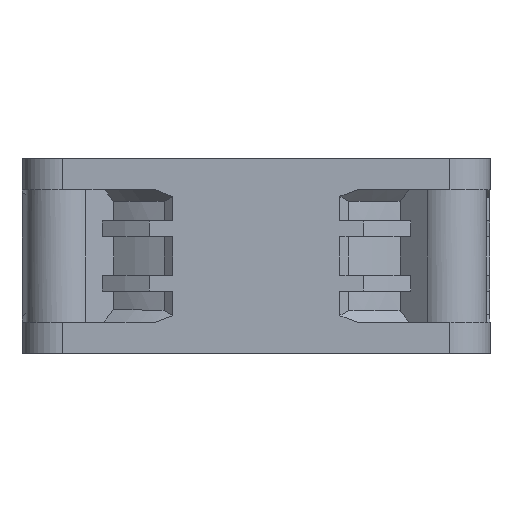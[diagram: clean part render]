
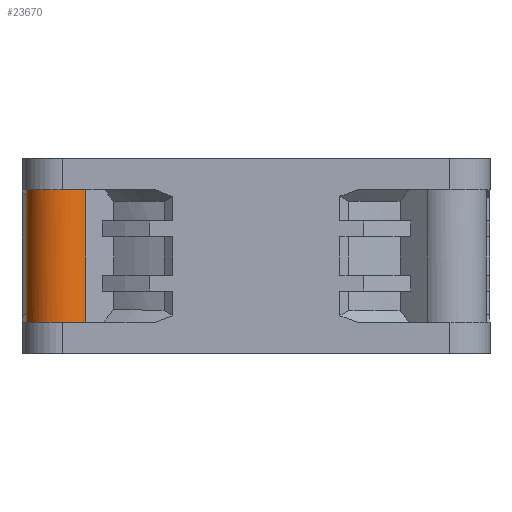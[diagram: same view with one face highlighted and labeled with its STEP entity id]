
A CAD part, left-side view. The second image highlights one B-rep face of the part: STEP entity #23670.
In plain terms, the highlighted free-form (B-spline) face has degree [1, 2] with [2, 9] control points.
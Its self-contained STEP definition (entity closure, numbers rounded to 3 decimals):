
#78=CARTESIAN_POINT('',(-128.385,21.868,20.7));
#79=VERTEX_POINT('',#78);
#85=CARTESIAN_POINT('',(-128.385,21.868,3.7));
#86=VERTEX_POINT('',#85);
#87=CARTESIAN_POINT('',(-128.385,21.868,20.7));
#88=CARTESIAN_POINT('',(-128.385,21.868,3.7));
#89=B_SPLINE_CURVE_WITH_KNOTS('',1,(#87,#88),.POLYLINE_FORM.,.F.,.U.,(2,2),(0.,1.),.UNSPECIFIED.);
#90=EDGE_CURVE('',#79,#86,#89,.T.);
#6789=CARTESIAN_POINT('',(-121.967,28.309,3.7));
#6790=VERTEX_POINT('',#6789);
#6796=CARTESIAN_POINT('',(-121.967,28.309,20.7));
#6797=VERTEX_POINT('',#6796);
#6798=CARTESIAN_POINT('',(-121.967,28.309,3.7));
#6799=CARTESIAN_POINT('',(-121.967,28.309,20.7));
#6800=B_SPLINE_CURVE_WITH_KNOTS('',1,(#6798,#6799),.POLYLINE_FORM.,.F.,.U.,(2,2),(0.,1.),.UNSPECIFIED.);
#6801=EDGE_CURVE('',#6790,#6797,#6800,.T.);
#23631=CARTESIAN_POINT('',(-123.951,17.07,3.7));
#23632=CARTESIAN_POINT('',(-126.168,19.469,3.7));
#23633=CARTESIAN_POINT('',(-128.385,21.868,3.7));
#23634=CARTESIAN_POINT('',(-131.349,25.075,3.7));
#23635=CARTESIAN_POINT('',(-128.267,28.168,3.7));
#23636=CARTESIAN_POINT('',(-125.184,31.261,3.7));
#23637=CARTESIAN_POINT('',(-121.967,28.309,3.7));
#23638=CARTESIAN_POINT('',(-119.561,26.101,3.7));
#23639=CARTESIAN_POINT('',(-117.155,23.893,3.7));
#23640=CARTESIAN_POINT('',(-123.951,17.07,20.7));
#23641=CARTESIAN_POINT('',(-126.168,19.469,20.7));
#23642=CARTESIAN_POINT('',(-128.385,21.868,20.7));
#23643=CARTESIAN_POINT('',(-131.349,25.075,20.7));
#23644=CARTESIAN_POINT('',(-128.267,28.168,20.7));
#23645=CARTESIAN_POINT('',(-125.184,31.261,20.7));
#23646=CARTESIAN_POINT('',(-121.967,28.309,20.7));
#23647=CARTESIAN_POINT('',(-119.561,26.101,20.7));
#23648=CARTESIAN_POINT('',(-117.155,23.893,20.7));
#23649=(BOUNDED_SURFACE()B_SPLINE_SURFACE(1,2,((#23631,#23632,#23633,#23634,#23635,#23636,#23637,#23638,#23639),(#23640,#23641,#23642,#23643,#23644,#23645,#23646,#23647,#23648)),.SURF_OF_LINEAR_EXTRUSION.,.F.,.F.,.U.)B_SPLINE_SURFACE_WITH_KNOTS((2,2),(3,2,2,2,3),(0.,3.736),(-7.138,0.,6.941,13.881,21.017),.UNSPECIFIED.)GEOMETRIC_REPRESENTATION_ITEM()RATIONAL_B_SPLINE_SURFACE(((0.984,0.984,0.984,0.716,1.,0.716,0.984,0.984,0.984),(0.984,0.984,0.984,0.716,1.,0.716,0.984,0.984,0.984)))REPRESENTATION_ITEM('')SURFACE());
#23650=ORIENTED_EDGE('',*,*,#90,.F.);
#23651=CARTESIAN_POINT('',(-128.385,21.868,20.7));
#23652=CARTESIAN_POINT('',(-131.349,25.075,20.7));
#23653=CARTESIAN_POINT('',(-128.267,28.168,20.7));
#23654=CARTESIAN_POINT('',(-125.184,31.261,20.7));
#23655=CARTESIAN_POINT('',(-121.967,28.309,20.7));
#23656=(BOUNDED_CURVE()B_SPLINE_CURVE(2,(#23651,#23652,#23653,#23654,#23655),.CIRCULAR_ARC.,.F.,.U.)B_SPLINE_CURVE_WITH_KNOTS((3,2,3),(0.,0.5,1.),.UNSPECIFIED.)CURVE()GEOMETRIC_REPRESENTATION_ITEM()RATIONAL_B_SPLINE_CURVE((1.,0.722,1.,0.722,1.))REPRESENTATION_ITEM(''));
#23657=EDGE_CURVE('',#79,#6797,#23656,.T.);
#23658=ORIENTED_EDGE('',*,*,#23657,.T.);
#23659=ORIENTED_EDGE('',*,*,#6801,.F.);
#23660=CARTESIAN_POINT('',(-121.967,28.309,3.7));
#23661=CARTESIAN_POINT('',(-125.184,31.261,3.7));
#23662=CARTESIAN_POINT('',(-128.267,28.168,3.7));
#23663=CARTESIAN_POINT('',(-131.349,25.075,3.7));
#23664=CARTESIAN_POINT('',(-128.385,21.868,3.7));
#23665=(BOUNDED_CURVE()B_SPLINE_CURVE(2,(#23660,#23661,#23662,#23663,#23664),.CIRCULAR_ARC.,.F.,.U.)B_SPLINE_CURVE_WITH_KNOTS((3,2,3),(0.,0.5,1.),.UNSPECIFIED.)CURVE()GEOMETRIC_REPRESENTATION_ITEM()RATIONAL_B_SPLINE_CURVE((1.,0.722,1.,0.722,1.))REPRESENTATION_ITEM(''));
#23666=EDGE_CURVE('',#6790,#86,#23665,.T.);
#23667=ORIENTED_EDGE('',*,*,#23666,.T.);
#23668=EDGE_LOOP('',(#23650,#23658,#23659,#23667));
#23669=FACE_OUTER_BOUND('',#23668,.T.);
#23670=ADVANCED_FACE('',(#23669),#23649,.T.);
